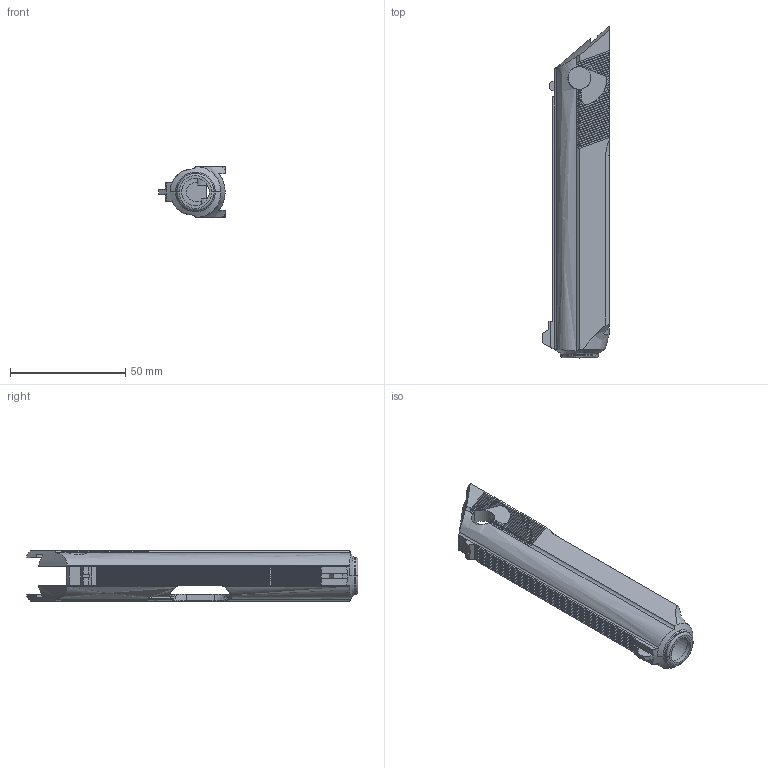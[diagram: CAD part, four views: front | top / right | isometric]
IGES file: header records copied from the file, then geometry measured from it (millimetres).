
Start section:  PTC IGES file: C:\Documents and Settings\audibk\personal\guns\walther\W alther_PPK\iges\schlitten03.igs
Global section: file name: C:\Documents and Settings\audibk\personal\guns\walther\Walther_PPK\iges\schlitten03.igs; native system: Pro/ENGINEER by Parametric Technology Corporation; preprocessor: 2002180; author: audibk; organization: Unknown; date: 030409.105322; units: millimetre
Bounding box: 29 x 144.13 x 22 mm (x, y, z)
Volume: 25376.3 mm3; surface area: 18604.2 mm2
Topology: 1 solids, 1 shells, 456 faces, 1330 edges, 872 vertices
Faces by surface type: bspline 456
